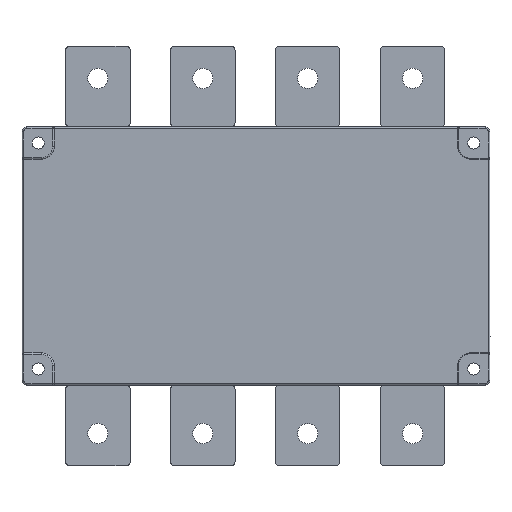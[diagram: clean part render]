
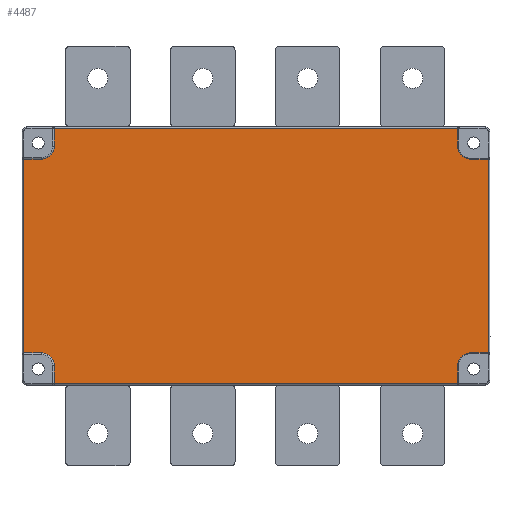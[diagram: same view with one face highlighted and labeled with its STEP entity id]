
A CAD part, front view. The second image highlights one B-rep face of the part: STEP entity #4487.
In plain terms, the highlighted planar face has unit normal (0, -1, 0).
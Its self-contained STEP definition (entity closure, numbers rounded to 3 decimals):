
#1009=DIRECTION('',(-1.,0.,0.));
#1010=VECTOR('',#1009,11.);
#1011=CARTESIAN_POINT('',(-163.,2.,60.));
#1012=LINE('',#1011,#1010);
#1034=DIRECTION('',(0.,0.,-1.));
#1035=VECTOR('',#1034,120.);
#1036=CARTESIAN_POINT('',(-174.,2.,60.));
#1037=LINE('',#1036,#1035);
#1038=CARTESIAN_POINT('',(-163.,2.,68.));
#1039=DIRECTION('',(0.,-1.,0.));
#1040=DIRECTION('',(0.,0.,-1.));
#1041=AXIS2_PLACEMENT_3D('',#1038,#1039,#1040);
#1043=DIRECTION('',(0.,0.,1.));
#1044=VECTOR('',#1043,11.);
#1045=CARTESIAN_POINT('',(-155.,2.,68.));
#1046=LINE('',#1045,#1044);
#1047=DIRECTION('',(0.,0.,-1.));
#1048=VECTOR('',#1047,11.);
#1049=CARTESIAN_POINT('',(95.,2.,79.));
#1050=LINE('',#1049,#1048);
#1051=CARTESIAN_POINT('',(103.,2.,68.));
#1052=DIRECTION('',(0.,-1.,0.));
#1053=DIRECTION('',(-1.,0.,0.));
#1054=AXIS2_PLACEMENT_3D('',#1051,#1052,#1053);
#1056=DIRECTION('',(1.,0.,0.));
#1057=VECTOR('',#1056,11.);
#1058=CARTESIAN_POINT('',(103.,2.,60.));
#1059=LINE('',#1058,#1057);
#1060=DIRECTION('',(-1.,0.,0.));
#1061=VECTOR('',#1060,11.);
#1062=CARTESIAN_POINT('',(114.,2.,-60.));
#1063=LINE('',#1062,#1061);
#1064=CARTESIAN_POINT('',(103.,2.,-68.));
#1065=DIRECTION('',(0.,-1.,0.));
#1066=DIRECTION('',(0.,0.,1.));
#1067=AXIS2_PLACEMENT_3D('',#1064,#1065,#1066);
#1069=DIRECTION('',(0.,0.,-1.));
#1070=VECTOR('',#1069,11.);
#1071=CARTESIAN_POINT('',(95.,2.,-68.));
#1072=LINE('',#1071,#1070);
#1073=CARTESIAN_POINT('',(-163.,2.,-68.));
#1074=DIRECTION('',(0.,-1.,0.));
#1075=DIRECTION('',(1.,0.,0.));
#1076=AXIS2_PLACEMENT_3D('',#1073,#1074,#1075);
#1078=DIRECTION('',(-1.,0.,0.));
#1079=VECTOR('',#1078,11.);
#1080=CARTESIAN_POINT('',(-163.,2.,-60.));
#1081=LINE('',#1080,#1079);
#1082=DIRECTION('',(-1.,0.,0.));
#1083=VECTOR('',#1082,250.);
#1084=CARTESIAN_POINT('',(95.,2.,79.));
#1085=LINE('',#1084,#1083);
#1542=DIRECTION('',(1.,0.,0.));
#1543=VECTOR('',#1542,250.);
#1544=CARTESIAN_POINT('',(-155.,2.,-79.));
#1545=LINE('',#1544,#1543);
#1660=DIRECTION('',(0.,0.,-1.));
#1661=VECTOR('',#1660,11.);
#1662=CARTESIAN_POINT('',(-155.,2.,-68.));
#1663=LINE('',#1662,#1661);
#1742=DIRECTION('',(0.,0.,1.));
#1743=VECTOR('',#1742,120.);
#1744=CARTESIAN_POINT('',(114.,2.,-60.));
#1745=LINE('',#1744,#1743);
#2525=CARTESIAN_POINT('',(-163.,2.,60.));
#2526=CARTESIAN_POINT('',(-174.,2.,60.));
#2527=VERTEX_POINT('',#2525);
#2528=VERTEX_POINT('',#2526);
#2529=CARTESIAN_POINT('',(-155.,2.,68.));
#2530=VERTEX_POINT('',#2529);
#2531=CARTESIAN_POINT('',(-155.,2.,79.));
#2532=VERTEX_POINT('',#2531);
#2533=CARTESIAN_POINT('',(95.,2.,79.));
#2534=VERTEX_POINT('',#2533);
#2535=CARTESIAN_POINT('',(95.,2.,68.));
#2536=VERTEX_POINT('',#2535);
#2537=CARTESIAN_POINT('',(103.,2.,60.));
#2538=VERTEX_POINT('',#2537);
#2539=CARTESIAN_POINT('',(114.,2.,60.));
#2540=VERTEX_POINT('',#2539);
#2541=CARTESIAN_POINT('',(114.,2.,-60.));
#2542=VERTEX_POINT('',#2541);
#2543=CARTESIAN_POINT('',(103.,2.,-60.));
#2544=VERTEX_POINT('',#2543);
#2545=CARTESIAN_POINT('',(95.,2.,-68.));
#2546=VERTEX_POINT('',#2545);
#2547=CARTESIAN_POINT('',(95.,2.,-79.));
#2548=VERTEX_POINT('',#2547);
#2549=CARTESIAN_POINT('',(-155.,2.,-79.));
#2550=VERTEX_POINT('',#2549);
#2551=CARTESIAN_POINT('',(-155.,2.,-68.));
#2552=VERTEX_POINT('',#2551);
#2553=CARTESIAN_POINT('',(-163.,2.,-60.));
#2554=VERTEX_POINT('',#2553);
#2555=CARTESIAN_POINT('',(-174.,2.,-60.));
#2556=VERTEX_POINT('',#2555);
#4452=CARTESIAN_POINT('',(0.,2.,0.));
#4453=DIRECTION('',(0.,-1.,0.));
#4454=DIRECTION('',(-1.,0.,0.));
#4455=AXIS2_PLACEMENT_3D('',#4452,#4453,#4454);
#4456=PLANE('',#4455);
#4457=ORIENTED_EDGE('',*,*,#4419,.F.);
#4458=ORIENTED_EDGE('',*,*,#4404,.T.);
#4459=ORIENTED_EDGE('',*,*,#4389,.T.);
#4461=ORIENTED_EDGE('',*,*,#4460,.F.);
#4463=ORIENTED_EDGE('',*,*,#4462,.T.);
#4465=ORIENTED_EDGE('',*,*,#4464,.T.);
#4467=ORIENTED_EDGE('',*,*,#4466,.T.);
#4469=ORIENTED_EDGE('',*,*,#4468,.F.);
#4471=ORIENTED_EDGE('',*,*,#4470,.T.);
#4473=ORIENTED_EDGE('',*,*,#4472,.T.);
#4475=ORIENTED_EDGE('',*,*,#4474,.T.);
#4477=ORIENTED_EDGE('',*,*,#4476,.F.);
#4479=ORIENTED_EDGE('',*,*,#4478,.F.);
#4481=ORIENTED_EDGE('',*,*,#4480,.T.);
#4483=ORIENTED_EDGE('',*,*,#4482,.T.);
#4484=ORIENTED_EDGE('',*,*,#4445,.F.);
#4485=EDGE_LOOP('',(#4457,#4458,#4459,#4461,#4463,#4465,#4467,#4469,#4471,#4473,
#4475,#4477,#4479,#4481,#4483,#4484));
#4486=FACE_OUTER_BOUND('',#4485,.F.);
#1042=CIRCLE('',#1041,8.);
#1055=CIRCLE('',#1054,8.);
#1068=CIRCLE('',#1067,8.);
#1077=CIRCLE('',#1076,8.);
#4389=EDGE_CURVE('',#2530,#2532,#1046,.T.);
#4404=EDGE_CURVE('',#2527,#2530,#1042,.T.);
#4419=EDGE_CURVE('',#2527,#2528,#1012,.T.);
#4445=EDGE_CURVE('',#2528,#2556,#1037,.T.);
#4460=EDGE_CURVE('',#2534,#2532,#1085,.T.);
#4462=EDGE_CURVE('',#2534,#2536,#1050,.T.);
#4464=EDGE_CURVE('',#2536,#2538,#1055,.T.);
#4466=EDGE_CURVE('',#2538,#2540,#1059,.T.);
#4468=EDGE_CURVE('',#2542,#2540,#1745,.T.);
#4470=EDGE_CURVE('',#2542,#2544,#1063,.T.);
#4472=EDGE_CURVE('',#2544,#2546,#1068,.T.);
#4474=EDGE_CURVE('',#2546,#2548,#1072,.T.);
#4476=EDGE_CURVE('',#2550,#2548,#1545,.T.);
#4478=EDGE_CURVE('',#2552,#2550,#1663,.T.);
#4480=EDGE_CURVE('',#2552,#2554,#1077,.T.);
#4482=EDGE_CURVE('',#2554,#2556,#1081,.T.);
#4487=ADVANCED_FACE('',(#4486),#4456,.T.);
